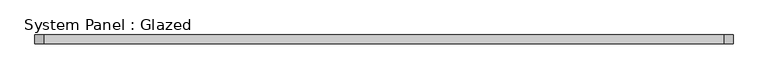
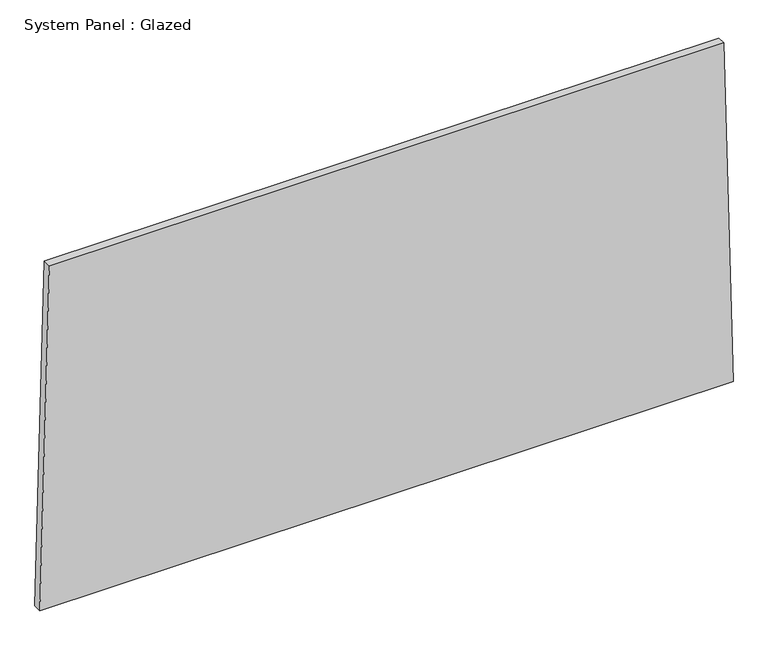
"""IFC4 building model written with IfcOpenShell, lengths in millimetres: plate geometry, System Panel : Glazed."""

import ifcopenshell
import ifcopenshell.guid

model = None  # the IFC model being written
_history = None  # IfcOwnerHistory: only IFC2X3 demands one
_inside = {}  # id of a spatial element -> (the spatial element, [elements in it])
_under = {}  # id of a project, library or spatial element -> (it, [spatial elements below it])
_declared = {}  # id of a project -> (the project, [libraries it declares])
_typed = {}  # id of a type object -> (the type object, [elements of that type])
_made_of = {}  # id of a material, layer set ... -> (it, [elements and type objects made of it])


def new_model(schema):
    """Start an empty IFC model of exactly this schema.

    Asked for "IFC4X3", IfcOpenShell would pick the latest addendum, in which some entities
    have other attributes; the version numbers below select the first issue.
    IFC2X3 requires an IfcOwnerHistory on every rooted entity: one is made here for all.
    """
    global model, _history
    if schema == "IFC4X3":
        model = ifcopenshell.file(schema_version=(4, 3, 0, 0))
    else:
        model = ifcopenshell.file(schema=schema)
    _inside.clear()
    _under.clear()
    _declared.clear()
    _typed.clear()
    _made_of.clear()
    _history = None
    if model.schema == "IFC2X3":
        org = make("IfcOrganization", Name="unknown")
        user = make(
            "IfcPersonAndOrganization",
            ThePerson=make("IfcPerson", FamilyName="unknown"),
            TheOrganization=org,
        )
        app = make(
            "IfcApplication",
            ApplicationDeveloper=org,
            Version="unknown",
            ApplicationFullName="unknown",
            ApplicationIdentifier="unknown",
        )
        _history = make(
            "IfcOwnerHistory",
            OwningUser=user,
            OwningApplication=app,
            ChangeAction="ADDED",
            CreationDate=0,
        )
    return model


def make(cls, **values):
    """One entity of the class cls with the attributes given. An attribute that is None is left unset."""
    return model.create_entity(
        cls, **{name: value for name, value in values.items() if value is not None}
    )


def rooted(cls, **values):
    """An entity with a GlobalId (a new one), such as an element, a storey or a relation."""
    return make(cls, GlobalId=ifcopenshell.guid.new(), OwnerHistory=_history, **values)


def si_unit(unit_type, name, prefix=None):
    """IfcSIUnit, for example si_unit("LENGTHUNIT", "METRE", prefix="MILLI")."""
    return make("IfcSIUnit", UnitType=unit_type, Prefix=prefix, Name=name)


def assignment(units):
    """IfcUnitAssignment: the units of a project."""
    return None if units is None else make("IfcUnitAssignment", Units=units)


def point(xyz):
    """IfcCartesianPoint."""
    return None if xyz is None else make("IfcCartesianPoint", Coordinates=xyz)


def direction(xyz):
    """IfcDirection."""
    return None if xyz is None else make("IfcDirection", DirectionRatios=xyz)


def frame(location, z_axis=None, x_axis=None):
    """IfcAxis2Placement3D, a coordinate frame: its origin and axes. An axis left out is left unset."""
    return make(
        "IfcAxis2Placement3D",
        Location=point(location),
        Axis=direction(z_axis),
        RefDirection=direction(x_axis),
    )


def origin():
    """The frame at (0, 0, 0) with its axes left unset."""
    return frame((0.0, 0.0, 0.0))


def place(relative_to, where):
    """IfcLocalPlacement: puts the frame where relative to a parent placement (None: the world)."""
    return make(
        "IfcLocalPlacement", PlacementRelTo=relative_to, RelativePlacement=where
    )


def context(
    kind, dimensions, precision=None, world=None, true_north=None, identifier=None
):
    """IfcGeometricRepresentationContext, for example the 3D "Model" context."""
    return make(
        "IfcGeometricRepresentationContext",
        ContextIdentifier=identifier,
        ContextType=kind,
        CoordinateSpaceDimension=dimensions,
        Precision=precision,
        WorldCoordinateSystem=world,
        TrueNorth=true_north,
    )


def project(units=None, contexts=None):
    """IfcProject with its units and contexts."""
    return rooted(
        "IfcProject",
        Name="project",
        RepresentationContexts=contexts,
        UnitsInContext=assignment(units),
    )


def spatial(cls, under=None, at=None, **own):
    """A site, building, storey or space (cls), placed at a placement, below another one or the project."""
    s = rooted(cls, ObjectPlacement=at, **own)
    if under is not None:
        _under.setdefault(under.id(), (under, []))[1].append(s)
    return s


def polyline(points):
    """IfcPolyline through the points."""
    return make("IfcPolyline", Points=[point(p) for p in points])


def outline(outer, holes=None, kind="AREA"):
    """IfcArbitraryClosedProfileDef: a profile drawn as a closed curve; with holes, ...WithVoids."""
    if holes is None:
        return make("IfcArbitraryClosedProfileDef", ProfileType=kind, OuterCurve=outer)
    return make(
        "IfcArbitraryProfileDefWithVoids",
        ProfileType=kind,
        OuterCurve=outer,
        InnerCurves=holes,
    )


def extrude(swept, where, along, depth):
    """IfcExtrudedAreaSolid: the profile swept, set in the frame where, extruded along a direction by depth."""
    return make(
        "IfcExtrudedAreaSolid",
        SweptArea=swept,
        Position=where,
        ExtrudedDirection=direction(along),
        Depth=depth,
    )


def shape(context_of_items, identifier, shape_type, items):
    """IfcShapeRepresentation: the items that make up one representation, for example the "Body"."""
    return make(
        "IfcShapeRepresentation",
        ContextOfItems=context_of_items,
        RepresentationIdentifier=identifier,
        RepresentationType=shape_type,
        Items=items,
    )


def source(mapping_origin, context_of_items, identifier, shape_type, items):
    """IfcRepresentationMap: a shape defined once, which mapped items show again and again."""
    return make(
        "IfcRepresentationMap",
        MappingOrigin=mapping_origin,
        MappedRepresentation=shape(context_of_items, identifier, shape_type, items),
    )


def transform(
    local_origin,
    x_axis=None,
    y_axis=None,
    z_axis=None,
    scale=None,
    scale2=None,
    scale3=None,
    uniform=True,
):
    """IfcCartesianTransformationOperator3D, or its non-uniform kind. x_axis, y_axis, z_axis: its Axis1, 2, 3."""
    if uniform:
        return make(
            "IfcCartesianTransformationOperator3D",
            Axis1=direction(x_axis),
            Axis2=direction(y_axis),
            LocalOrigin=point(local_origin),
            Scale=scale,
            Axis3=direction(z_axis),
        )
    return make(
        "IfcCartesianTransformationOperator3DnonUniform",
        Axis1=direction(x_axis),
        Axis2=direction(y_axis),
        LocalOrigin=point(local_origin),
        Scale=scale,
        Axis3=direction(z_axis),
        Scale2=scale2,
        Scale3=scale3,
    )


def mapped(mapping_source, mapping_target):
    """IfcMappedItem: shows the shape of a source again, moved by a transform."""
    return make(
        "IfcMappedItem", MappingSource=mapping_source, MappingTarget=mapping_target
    )


def made_of(thing, what):
    """Note that an element or type object is made of a material, layer set ...; save() writes the relation."""
    if what is not None:
        _made_of.setdefault(what.id(), (what, []))[1].append(thing)
    return thing


def element(
    cls,
    number,
    at=None,
    inside=None,
    cuts=None,
    type_object=None,
    material=None,
    context=None,
    identifier="Body",
    shape_type=None,
    held_by="IfcProductDefinitionShape",
    body=None,
    shapes=None,
    **own,
):
    """One element of the class cls, such as IfcWall. Its Tag is "e" and its number.

    at: its placement. inside: the storey or other place that contains it. cuts: it is an
    opening in that element (IfcRelVoidsElement). A single representation is given by context,
    identifier, shape_type and body (its items); several are given by shapes. held_by: the class
    of the entity that holds the representations. save() writes the other relations.
    """
    e = rooted(cls, Tag="e%d" % number, ObjectPlacement=at, **own)
    if body is not None:
        shapes = [shape(context, identifier, shape_type, body)]
    if shapes is not None:
        e.Representation = make(held_by, Representations=shapes)
    if inside is not None:
        _inside.setdefault(inside.id(), (inside, []))[1].append(e)
    if cuts is not None:
        rooted(
            "IfcRelVoidsElement", RelatingBuildingElement=cuts, RelatedOpeningElement=e
        )
    if type_object is not None:
        _typed.setdefault(type_object.id(), (type_object, []))[1].append(e)
    return made_of(e, material)


def aggregate(whole, parts):
    """IfcRelAggregates: a whole, such as a stair, and the parts it consists of."""
    return rooted("IfcRelAggregates", RelatingObject=whole, RelatedObjects=parts)


def save(model, path):
    """Write the relations noted so far, then the file.

    IfcRelAggregates (storeys below a building ...), IfcRelContainedInSpatialStructure (elements
    in a storey), IfcRelDefinesByType, IfcRelAssociatesMaterial and IfcRelDeclares: one each for
    every whole, place, type object, material and project.
    """
    for whole, parts in _under.values():
        aggregate(whole, parts)
    for where, things in _inside.values():
        rooted(
            "IfcRelContainedInSpatialStructure",
            RelatedElements=things,
            RelatingStructure=where,
        )
    for kind, things in _typed.values():
        rooted("IfcRelDefinesByType", RelatedObjects=things, RelatingType=kind)
    for what, things in _made_of.values():
        rooted("IfcRelAssociatesMaterial", RelatedObjects=things, RelatingMaterial=what)
    for by, libraries in _declared.values():
        rooted("IfcRelDeclares", RelatingContext=by, RelatedDefinitions=libraries)
    model.write(path)


def system_panel_glazed_3fa45d0b(model_context):
    return source(origin(), model_context, "Body", "SweptSolid", [
        extrude(outline(polyline([(0.0, -1022.9539533), (0.0, 1022.9539533), (1066.4364867, 995.1068735), (1066.4364867, -995.1068735), (0.0, -1022.9539533)])), frame((0.0, -44.45, 0.0), z_axis=(0.0, 1.0, 0.0), x_axis=(0.0, 0.0, 1.0)), (0.0, 0.0, 1.0), 25.4),
    ])


if __name__ == "__main__":
    model = new_model("IFC4")
    model_context = context("Model", 3, world=origin())
    ifc_project = project(units=[si_unit("LENGTHUNIT", "METRE", prefix="MILLI")], contexts=[model_context])
    site = spatial("IfcSite", under=ifc_project)
    building = spatial("IfcBuilding", under=site)
    placement = place(None, origin())
    system_panel_glazed_shape = system_panel_glazed_3fa45d0b(model_context)
    element("IfcPlate", 1, ObjectType="System Panel : Glazed", at=placement, inside=building, context=model_context, shape_type="MappedRepresentation", body=[
        mapped(system_panel_glazed_shape, transform((0.0, 0.0, 0.0), x_axis=(1.0, 0.0, 0.0), y_axis=(0.0, 1.0, 0.0), z_axis=(0.0, 0.0, 1.0))),
    ])
    save(model, "model.ifc")
